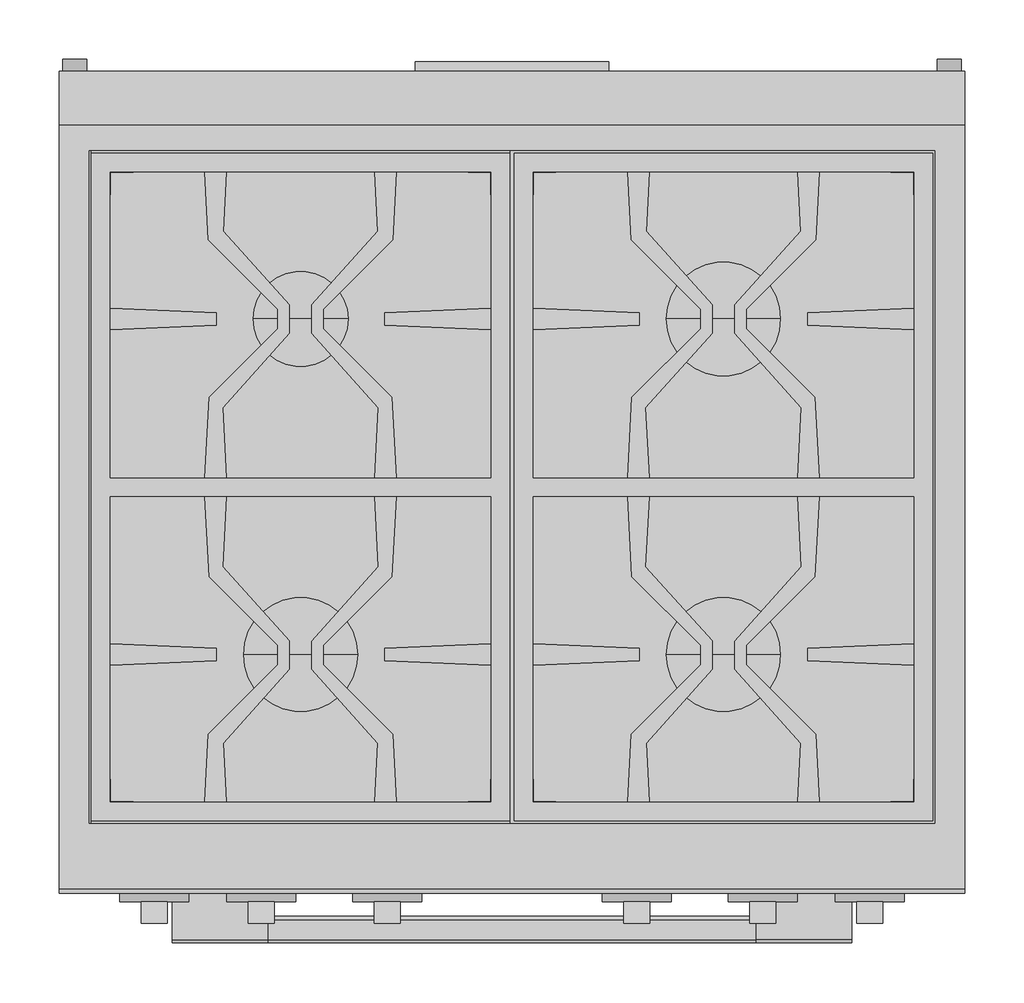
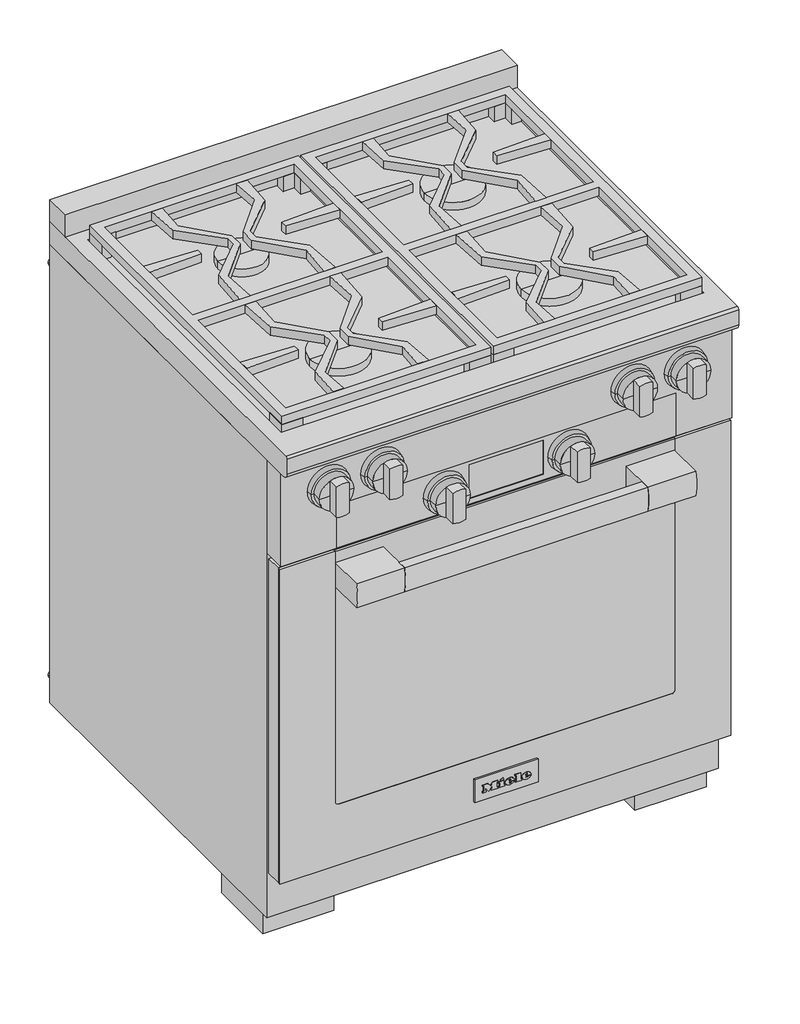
# Not in any storey: 1 proxy.
"""IFC4 building model written with IfcOpenShell, lengths in millimetres."""

from ifc_helpers import new_model, si_unit, origin, place, context, project, spatial, transform, mapped, element, save
from components import specialty_equipment_1acf6e52, specialty_equipment_9f55172a

model = new_model("IFC4")

# Units and contexts
model_context = context("Model", 3, world=origin())
ifc_project = project(units=[si_unit("LENGTHUNIT", "METRE", prefix="MILLI")], contexts=[model_context])

# Site, building
site = spatial("IfcSite", under=ifc_project)
building = spatial("IfcBuilding", under=site)

# Proxy
placement = place(None, origin())
specialty_equipment_shape = specialty_equipment_1acf6e52(model_context)
specialty_equipment_2_shape = specialty_equipment_9f55172a(model_context)
element("IfcBuildingElementProxy", 1, Name="11791390_USA_HR1124-3LP_EDST-CLS : 25112482_USA_11791390_HR1124-3LP_EDST-CLS", ObjectType="11791390_USA_HR1124-3LP_EDST-CLS : 25112482_USA_11791390_HR1124-3LP_EDST-CLS", at=placement, inside=building, context=model_context, shape_type="MappedRepresentation", body=[
    mapped(specialty_equipment_shape, transform((0.0, 0.0, 0.0), x_axis=(1.0, 0.0, 0.0), y_axis=(0.0, 1.0, 0.0), z_axis=(0.0, 0.0, 1.0))),
    mapped(specialty_equipment_2_shape, transform((0.0, 0.0, 0.0), x_axis=(1.0, 0.0, 0.0), y_axis=(0.0, 1.0, 0.0), z_axis=(0.0, 0.0, 1.0))),
])

save(model, "model.ifc")
